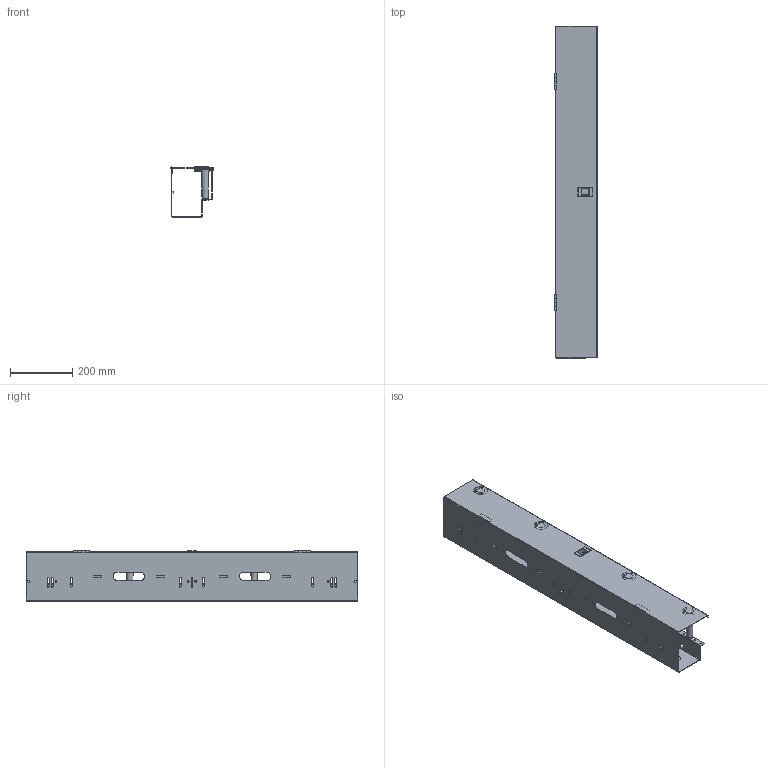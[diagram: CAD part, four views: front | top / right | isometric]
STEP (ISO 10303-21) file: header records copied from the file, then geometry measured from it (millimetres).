
FILE_DESCRIPTION((''),'2;1');
FILE_NAME('D:\scratch\ideas\assy_pvcm_128_xdeep.stp', '2006-02-06T15:26:01',('User'),('SDRC'),'I-DEAS Master Series 9','UNIX', 'Yes');
FILE_SCHEMA(('AUTOMOTIVE_DESIGN { 1 0 10303 214 0 1 1 1 }'));
Length unit declared in the file: inch
Products named in the file (10): assy_pvcm_128_xdeep; cover_trough_1200X100; slidelatch; 87788797; assy_spool_4in; 87780766; trough_vert_1200x100_xdeep; hinge_0530; hinge_leaf_2; hinge_leaf_1
Assembly tree (13 placements, depth 3):
  assy_pvcm_128_xdeep
    cover_trough_1200X100
    slidelatch
    87788797
    assy_spool_4in  x4
      87780766
    trough_vert_1200x100_xdeep
    hinge_0530  x2
      hinge_leaf_2
      hinge_leaf_1
Bounding box: 136.84 x 1067.41 x 161.21 mm (x, y, z)
Volume: 883928.1 mm3; surface area: 1046882.5 mm2
Topology: 12 solids, 12 shells, 909 faces, 2355 edges, 1512 vertices
Faces by surface type: bspline 909
Entity records: 22959 total; most frequent: CARTESIAN_POINT 13551, ORIENTED_EDGE 2774, EDGE_CURVE 1387, VERTEX_POINT 895, EDGE_LOOP 712, QUASI_UNIFORM_CURVE 649, FACE_OUTER_BOUND 512, ADVANCED_FACE 512
